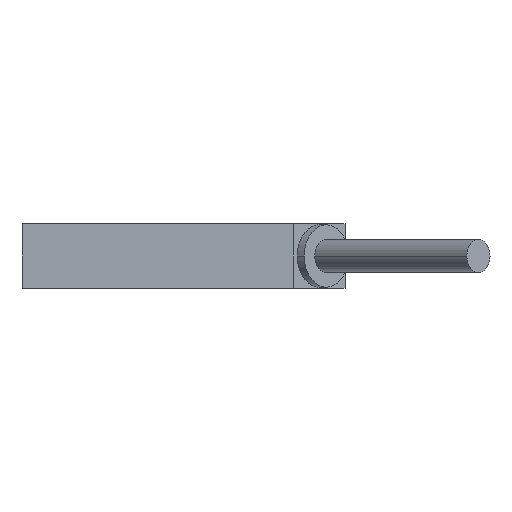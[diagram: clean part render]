
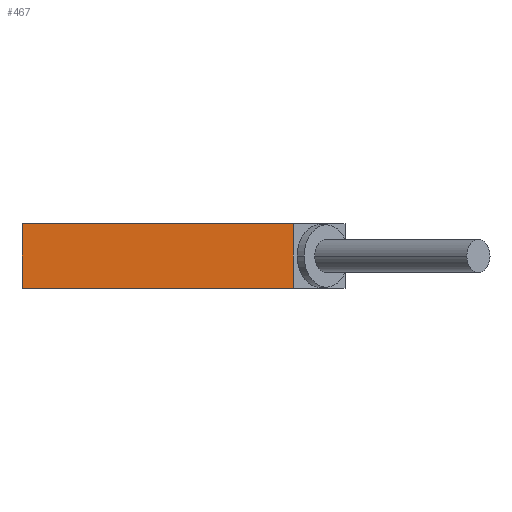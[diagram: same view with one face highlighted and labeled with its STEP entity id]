
A CAD part, left-side view. The second image highlights one B-rep face of the part: STEP entity #467.
In plain terms, the highlighted planar face has unit normal (-1, 0, 0).
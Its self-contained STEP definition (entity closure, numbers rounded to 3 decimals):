
#281 = EDGE_CURVE ( 'NONE', #360, #341, #1624, .T. ) ;
#307 = EDGE_CURVE ( 'NONE', #360, #335, #1696, .T. ) ;
#335 = VERTEX_POINT ( 'NONE', #1717 ) ;
#341 = VERTEX_POINT ( 'NONE', #1771 ) ;
#360 = VERTEX_POINT ( 'NONE', #1801 ) ;
#437 = VERTEX_POINT ( 'NONE', #1928 ) ;
#443 = EDGE_CURVE ( 'NONE', #341, #437, #1923, .T. ) ;
#467 = ADVANCED_FACE ( 'NONE', ( #1933 ), #1909, .F. ) ;
#470 = ORIENTED_EDGE ( 'NONE', *, *, #1016, .T. ) ;
#472 = ORIENTED_EDGE ( 'NONE', *, *, #307, .F. ) ;
#481 = EDGE_LOOP ( 'NONE', ( #490, #470, #472, #487 ) ) ;
#487 = ORIENTED_EDGE ( 'NONE', *, *, #281, .T. ) ;
#490 = ORIENTED_EDGE ( 'NONE', *, *, #443, .T. ) ;
#1016 = EDGE_CURVE ( 'NONE', #437, #335, #2900, .T. ) ;
#1613 = DIRECTION ( 'NONE',  ( 0., 0., -1. ) ) ;
#1614 = CARTESIAN_POINT ( 'NONE',  ( -37.5, 37.5, 15. ) ) ;
#1624 = LINE ( 'NONE', #1614, #1672 ) ;
#1672 = VECTOR ( 'NONE', #1613, 1000. ) ;
#1693 = DIRECTION ( 'NONE',  ( 0., -1., 0. ) ) ;
#1694 = VECTOR ( 'NONE', #1693, 1000. ) ;
#1695 = CARTESIAN_POINT ( 'NONE',  ( -37.5, 37.5, 15. ) ) ;
#1696 = LINE ( 'NONE', #1695, #1694 ) ;
#1717 = CARTESIAN_POINT ( 'NONE',  ( -37.5, -25.5, 15. ) ) ;
#1771 = CARTESIAN_POINT ( 'NONE',  ( -37.5, 37.5, 0. ) ) ;
#1801 = CARTESIAN_POINT ( 'NONE',  ( -37.5, 37.5, 15. ) ) ;
#1906 = DIRECTION ( 'NONE',  ( 0., -1., 0. ) ) ;
#1907 = VECTOR ( 'NONE', #1906, 1000. ) ;
#1908 = CARTESIAN_POINT ( 'NONE',  ( -37.5, 37.5, 0. ) ) ;
#1909 = PLANE ( 'NONE',  #1937 ) ;
#1923 = LINE ( 'NONE', #1908, #1907 ) ;
#1928 = CARTESIAN_POINT ( 'NONE',  ( -37.5, -25.5, 0. ) ) ;
#1930 = DIRECTION ( 'NONE',  ( 0., 0., -1. ) ) ;
#1933 = FACE_OUTER_BOUND ( 'NONE', #481, .T. ) ;
#1937 = AXIS2_PLACEMENT_3D ( 'NONE', #1957, #1954, #1930 ) ;
#1954 = DIRECTION ( 'NONE',  ( 1., 0., 0. ) ) ;
#1957 = CARTESIAN_POINT ( 'NONE',  ( -37.5, 37.5, 15. ) ) ;
#2881 = DIRECTION ( 'NONE',  ( 0., 0., 1. ) ) ;
#2882 = VECTOR ( 'NONE', #2881, 1000. ) ;
#2883 = CARTESIAN_POINT ( 'NONE',  ( -37.5, -25.5, 15. ) ) ;
#2900 = LINE ( 'NONE', #2883, #2882 ) ;
